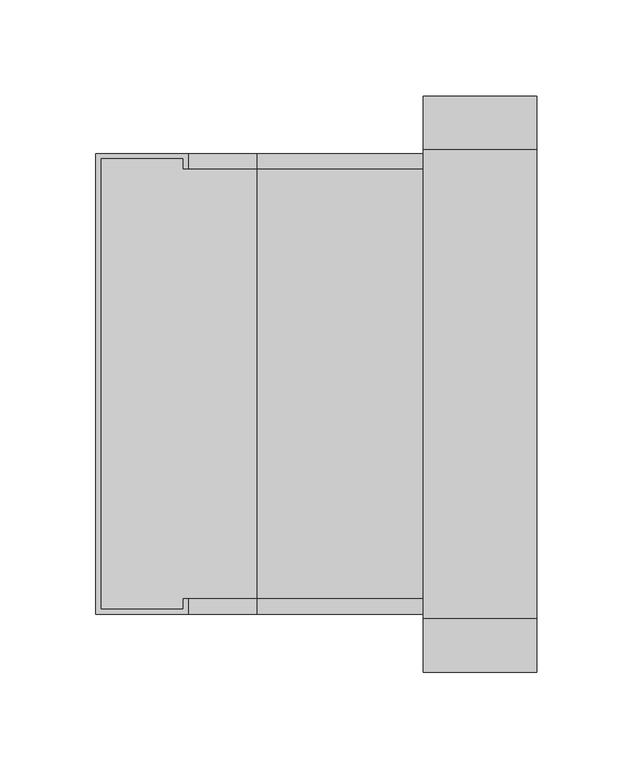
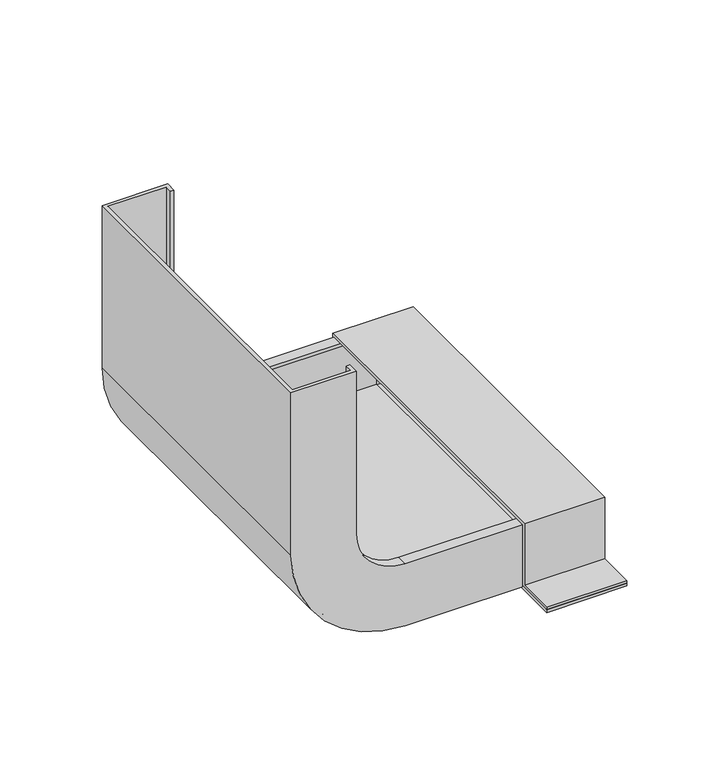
"""IFC4 building model written with IfcOpenShell, lengths in millimetres: cable carrier fitting geometry, Electrical-Installations_Hager_Vertical-Elbow-UKK : Vertical-Elbow-3-Compartments-UKK."""

from ifc_helpers import new_model, si_unit, frame, origin, place, context, project, spatial, polyline, circle_curve, outline, extrude, source, transform, mapped, element, save
from ifc_brep_helpers import plane_surface, cylinder_surface, revolved_surface, advanced_brep


def cable_carrier_fitting_7ac4a7a7(model_context):
    return source(origin(), model_context, "Body", "SolidModel", [
        extrude(outline(polyline([(29.5, 150.0), (29.5, -150.0), (-29.5, -150.0), (-29.5, 150.0), (29.5, 150.0)])), frame((0.0, 0.0, -26.0), z_axis=(0.0, 0.0, 1.0), x_axis=(1.0, 0.0, 0.0)), (0.0, 0.0, 1.0), 2.0),
        extrude(outline(polyline([(120.0, 24.0), (-120.0, 24.0), (-120.0, -24.0), (-150.0, -24.0), (-150.0, -22.0), (-122.0, -22.0), (-122.0, 26.0), (122.0, 26.0), (122.0, -22.0), (150.0, -22.0), (150.0, -24.0), (120.0, -24.0), (120.0, 24.0)])), frame((-29.5, 0.0, 0.0), z_axis=(1.0, 0.0, 0.0), x_axis=(0.0, 1.0, 0.0)), (0.0, 0.0, 1.0), 59.0),
        advanced_brep(
        [(0.0, -120.0, 24.0), (0.0, -120.0, -24.0), (0.0, 120.0, -24.0), (0.0, 120.0, 24.0), (0.0, 112.0398749, 24.0), (0.0, 112.0398749, 21.46), (0.0, 117.46, 21.46), (0.0, 117.46, -21.46), (0.0, -117.46, -21.46), (0.0, -117.46, 21.46), (0.0, -111.8310402, 21.46), (0.0, -111.8310402, 24.0), (-116.0, -120.0, 24.0), (-152.0, -120.0, 60.0), (-152.0, -120.0, 186.0), (-200.0, -120.0, 186.0), (-200.0, -120.0, 60.0), (-116.0, -120.0, -24.0), (-116.0, 120.0, -24.0), (-200.0, 120.0, 60.0), (-200.0, 120.0, 186.0), (-152.0, 120.0, 186.0), (-152.0, 120.0, 60.0), (-116.0, 120.0, 24.0), (-116.0, 112.0398749, 24.0), (-152.0, 112.0398749, 60.0), (-152.0, 112.0398749, 186.0), (-154.54, 112.0398749, 186.0), (-154.54, 112.0398749, 60.0), (-116.0, 112.0398749, 21.46), (-116.0, 117.46, 21.46), (-154.54, 117.46, 60.0), (-154.54, 117.46, 186.0), (-197.46, 117.46, 186.0), (-197.46, 117.46, 60.0), (-116.0, 117.46, -21.46), (-116.0, -117.46, -21.46), (-197.46, -117.46, 60.0), (-197.46, -117.46, 186.0), (-154.54, -117.46, 186.0), (-154.54, -117.46, 60.0), (-116.0, -117.46, 21.46), (-116.0, -111.8310402, 21.46), (-154.54, -111.8310402, 60.0), (-154.54, -111.8310402, 186.0), (-152.0, -111.8310402, 186.0), (-152.0, -111.8310402, 60.0), (-116.0, -111.8310402, 24.0)],
        [
            (0, 1),
            (1, 2),
            (2, 3),
            (3, 4),
            (4, 5),
            (5, 6),
            (6, 7),
            (7, 8),
            (8, 9),
            (9, 10),
            (10, 11),
            (11, 0),
            (0, 12),
            (12, 13, circle_curve(frame((-116.0, -120.0, 60.0), z_axis=(0.0, 1.0, 0.0), x_axis=(0.0, 0.0, -1.0)), 36.0)),
            (13, 14),
            (14, 15),
            (15, 16),
            (16, 17, circle_curve(frame((-116.0, -120.0, 60.0), z_axis=(0.0, -1.0, 0.0), x_axis=(0.0, 0.0, -1.0)), 84.0)),
            (17, 1),
            (17, 18),
            (18, 2),
            (18, 19, circle_curve(frame((-116.0, 120.0, 60.0), z_axis=(0.0, 1.0, 0.0), x_axis=(0.0, 0.0, -1.0)), 84.0)),
            (19, 20),
            (20, 21),
            (21, 22),
            (22, 23, circle_curve(frame((-116.0, 120.0, 60.0), z_axis=(0.0, -1.0, 0.0), x_axis=(0.0, 0.0, -1.0)), 36.0)),
            (23, 3),
            (23, 24),
            (24, 4),
            (24, 25, circle_curve(frame((-116.0, 112.0398749, 60.0), z_axis=(0.0, 1.0, 0.0), x_axis=(0.0, 0.0, -1.0)), 36.0)),
            (25, 26),
            (26, 27),
            (27, 28),
            (28, 29, circle_curve(frame((-116.0, 112.0398749, 60.0), z_axis=(0.0, -1.0, 0.0), x_axis=(0.0, 0.0, -1.0)), 38.54)),
            (29, 5),
            (29, 30),
            (30, 6),
            (30, 31, circle_curve(frame((-116.0, 117.46, 60.0), z_axis=(0.0, 1.0, 0.0), x_axis=(0.0, 0.0, -1.0)), 38.54)),
            (31, 32),
            (32, 33),
            (33, 34),
            (34, 35, circle_curve(frame((-116.0, 117.46, 60.0), z_axis=(0.0, -1.0, 0.0), x_axis=(0.0, 0.0, -1.0)), 81.46)),
            (35, 7),
            (35, 36),
            (36, 8),
            (36, 37, circle_curve(frame((-116.0, -117.46, 60.0), z_axis=(0.0, 1.0, 0.0), x_axis=(0.0, 0.0, -1.0)), 81.46)),
            (37, 38),
            (38, 39),
            (39, 40),
            (40, 41, circle_curve(frame((-116.0, -117.46, 60.0), z_axis=(0.0, -1.0, 0.0), x_axis=(0.0, 0.0, -1.0)), 38.54)),
            (41, 9),
            (41, 42),
            (42, 10),
            (42, 43, circle_curve(frame((-116.0, -111.8310402, 60.0), z_axis=(0.0, 1.0, 0.0), x_axis=(0.0, 0.0, -1.0)), 38.54)),
            (43, 44),
            (44, 45),
            (45, 46),
            (46, 47, circle_curve(frame((-116.0, -111.8310402, 60.0), z_axis=(0.0, -1.0, 0.0), x_axis=(0.0, 0.0, -1.0)), 36.0)),
            (47, 11),
            (47, 12),
            (14, 45),
            (44, 39),
            (38, 33),
            (32, 27),
            (26, 21),
            (20, 15),
            (19, 16),
            (25, 22),
            (31, 28),
            (37, 34),
            (43, 40),
            (13, 46),
        ],
        [
            plane_surface(frame((0.0, 0.0, 0.0), z_axis=(1.0, 0.0, 0.0), x_axis=(0.0, -1.0, 0.0))),
            plane_surface(frame((0.0, -120.0, 24.0), z_axis=(0.0, -1.0, 0.0), x_axis=(-1.0, 0.0, 0.0))),
            plane_surface(frame((0.0, -120.0, -24.0), z_axis=(0.0, 0.0, -1.0), x_axis=(-1.0, 0.0, 0.0))),
            plane_surface(frame((0.0, 120.0, -24.0), z_axis=(0.0, 1.0, 0.0), x_axis=(-1.0, 0.0, 0.0))),
            plane_surface(frame((0.0, 120.0, 24.0), z_axis=(0.0, 0.0, 1.0), x_axis=(-1.0, 0.0, 0.0))),
            plane_surface(frame((0.0, 112.0398749, 24.0), z_axis=(0.0, -1.0, 0.0), x_axis=(-1.0, 0.0, 0.0))),
            plane_surface(frame((0.0, 112.0398749, 21.46), z_axis=(0.0, 0.0, -1.0), x_axis=(-1.0, 0.0, 0.0))),
            plane_surface(frame((0.0, 117.46, 21.46), z_axis=(0.0, -1.0, 0.0), x_axis=(-1.0, 0.0, 0.0))),
            plane_surface(frame((0.0, 117.46, -21.46), z_axis=(0.0, 0.0, 1.0), x_axis=(-1.0, 0.0, 0.0))),
            plane_surface(frame((0.0, -117.46, -21.46), z_axis=(0.0, 1.0, 0.0), x_axis=(-1.0, 0.0, 0.0))),
            plane_surface(frame((0.0, -117.46, 21.46), z_axis=(0.0, 0.0, -1.0), x_axis=(-1.0, 0.0, 0.0))),
            plane_surface(frame((0.0, -111.8310402, 21.46), z_axis=(0.0, 1.0, 0.0), x_axis=(-1.0, 0.0, 0.0))),
            plane_surface(frame((0.0, -111.8310402, 24.0), z_axis=(0.0, 0.0, 1.0), x_axis=(-1.0, 0.0, 0.0))),
            plane_surface(frame((-176.0, 0.0, 186.0), z_axis=(0.0, 0.0, 1.0), x_axis=(0.0, -1.0, 0.0))),
            plane_surface(frame((-200.0, -120.0, 60.0), z_axis=(-1.0, 0.0, 0.0), x_axis=(0.0, 0.0, 1.0))),
            plane_surface(frame((-152.0, 120.0, 60.0), z_axis=(1.0, 0.0, 0.0), x_axis=(0.0, 0.0, 1.0))),
            plane_surface(frame((-154.54, 112.0398749, 60.0), z_axis=(-1.0, 0.0, 0.0), x_axis=(0.0, 0.0, 1.0))),
            plane_surface(frame((-197.46, 117.46, 60.0), z_axis=(1.0, 0.0, 0.0), x_axis=(0.0, 0.0, 1.0))),
            plane_surface(frame((-154.54, -117.46, 60.0), z_axis=(-1.0, 0.0, 0.0), x_axis=(0.0, 0.0, 1.0))),
            plane_surface(frame((-152.0, -111.8310402, 60.0), z_axis=(1.0, 0.0, 0.0), x_axis=(0.0, 0.0, 1.0))),
            cylinder_surface(frame((-116.0, 0.0, 60.0), z_axis=(0.0, 1.0, 0.0), x_axis=(0.0, 0.0, -1.0)), 84.0),
            revolved_surface(polyline([(-116.0, 120.0, 24.0), (-116.0, 112.0398749, 24.0)]), (-116.0, 0.0, 60.0), (0.0, 1.0, 0.0)),
            cylinder_surface(frame((-116.0, 0.0, 60.0), z_axis=(0.0, 1.0, 0.0), x_axis=(0.0, 0.0, -1.0)), 38.54),
            revolved_surface(polyline([(-116.0, 117.46, -21.459999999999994), (-116.0, -117.46, -21.459999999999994)]), (-116.0, 0.0, 60.0), (0.0, 1.0, 0.0)),
            revolved_surface(polyline([(-116.0, -111.8310402, 24.0), (-116.0, -120.0, 24.0)]), (-116.0, 0.0, 60.0), (0.0, 1.0, 0.0)),
        ],
        [
            (0, [[1, 2, 3, 4, 5, 6, 7, 8, 9, 10, 11, 12]]),
            (1, [[-1, 13, 14, 15, 16, 17, 18, 19]]),
            (2, [[-2, -19, 20, 21]]),
            (3, [[-3, -21, 22, 23, 24, 25, 26, 27]]),
            (4, [[-4, -27, 28, 29]]),
            (5, [[-5, -29, 30, 31, 32, 33, 34, 35]]),
            (6, [[-6, -35, 36, 37]]),
            (7, [[-7, -37, 38, 39, 40, 41, 42, 43]]),
            (8, [[-8, -43, 44, 45]]),
            (9, [[-9, -45, 46, 47, 48, 49, 50, 51]]),
            (10, [[-10, -51, 52, 53]]),
            (11, [[-11, -53, 54, 55, 56, 57, 58, 59]]),
            (12, [[-12, -59, 60, -13]]),
            (13, [[61, -56, 62, -48, 63, -40, 64, -32, 65, -24, 66, -16]]),
            (14, [[67, -17, -66, -23]]),
            (15, [[68, -25, -65, -31]]),
            (16, [[69, -33, -64, -39]]),
            (17, [[70, -41, -63, -47]]),
            (18, [[71, -49, -62, -55]]),
            (19, [[72, -57, -61, -15]]),
            (20, [[-22, -20, -18, -67]]),
            (21, [[-30, -28, -26, -68]]),
            (22, [[-38, -36, -34, -69]]),
            (23, [[-46, -44, -42, -70]]),
            (22, [[-54, -52, -50, -71]]),
            (24, [[-14, -60, -58, -72]]),
        ],
    ),
    ])


if __name__ == "__main__":
    model = new_model("IFC4")
    model_context = context("Model", 3, world=origin())
    ifc_project = project(units=[si_unit("LENGTHUNIT", "METRE", prefix="MILLI")], contexts=[model_context])
    site = spatial("IfcSite", under=ifc_project)
    building = spatial("IfcBuilding", under=site)
    placement = place(None, origin())
    cable_carrier_fitting_shape = cable_carrier_fitting_7ac4a7a7(model_context)
    element("IfcCableCarrierFitting", 1, ObjectType="Electrical-Installations_Hager_Vertical-Elbow-UKK : Vertical-Elbow-3-Compartments-UKK", at=placement, inside=building, context=model_context, shape_type="MappedRepresentation", body=[
        mapped(cable_carrier_fitting_shape, transform((0.0, 0.0, 0.0), x_axis=(1.0, 0.0, 0.0), y_axis=(0.0, 1.0, 0.0), z_axis=(0.0, 0.0, 1.0))),
    ])
    save(model, "model.ifc")
